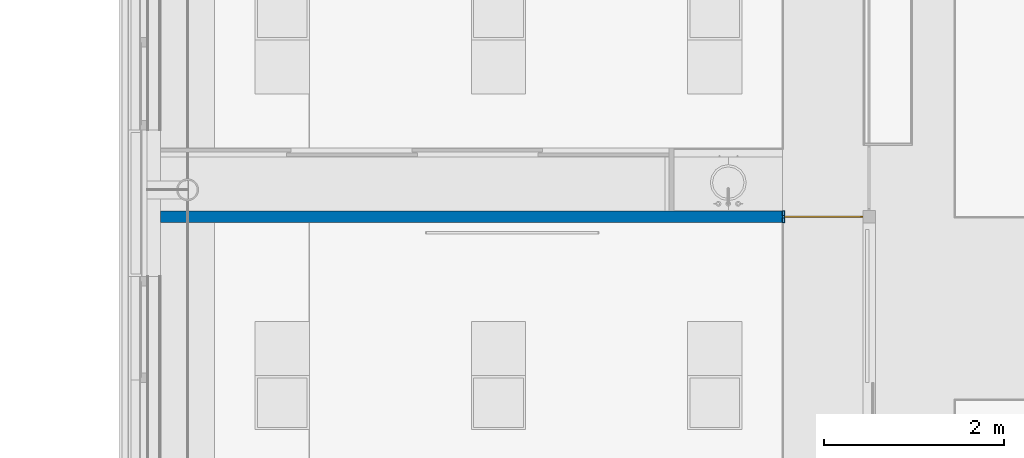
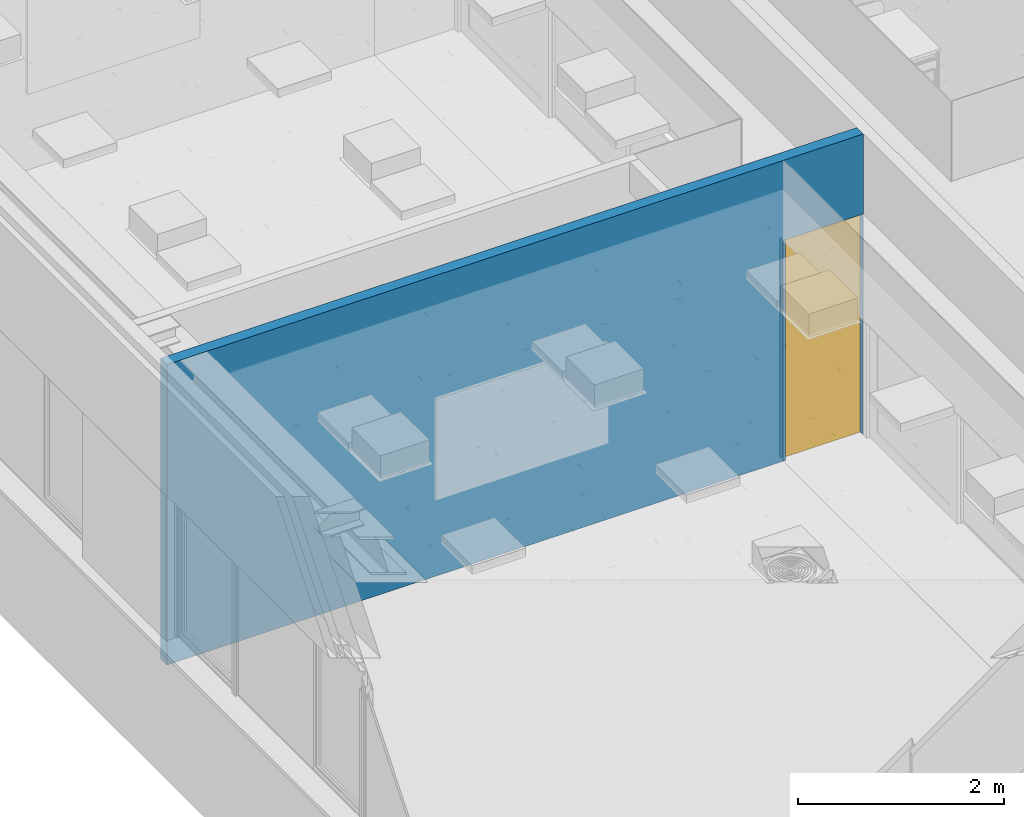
# One storey, part 27 of 260: 2 building element parts, 1 wall, 1 window, 2 openings, 1 element without a shape of its own.
"""IFC2X3 building model written with IfcOpenShell, lengths in millimetres."""

import ifcopenshell
import ifcopenshell.guid

model = None  # the IFC model being written
_history = None  # IfcOwnerHistory: only IFC2X3 demands one
_inside = {}  # id of a spatial element -> (the spatial element, [elements in it])
_under = {}  # id of a project, library or spatial element -> (it, [spatial elements below it])
_declared = {}  # id of a project -> (the project, [libraries it declares])
_typed = {}  # id of a type object -> (the type object, [elements of that type])
_made_of = {}  # id of a material, layer set ... -> (it, [elements and type objects made of it])


def new_model(schema):
    """Start an empty IFC model of exactly this schema.

    Asked for "IFC4X3", IfcOpenShell would pick the latest addendum, in which some entities
    have other attributes; the version numbers below select the first issue.
    IFC2X3 requires an IfcOwnerHistory on every rooted entity: one is made here for all.
    """
    global model, _history
    if schema == "IFC4X3":
        model = ifcopenshell.file(schema_version=(4, 3, 0, 0))
    else:
        model = ifcopenshell.file(schema=schema)
    _inside.clear()
    _under.clear()
    _declared.clear()
    _typed.clear()
    _made_of.clear()
    _history = None
    if model.schema == "IFC2X3":
        org = make("IfcOrganization", Name="unknown")
        user = make(
            "IfcPersonAndOrganization",
            ThePerson=make("IfcPerson", FamilyName="unknown"),
            TheOrganization=org,
        )
        app = make(
            "IfcApplication",
            ApplicationDeveloper=org,
            Version="unknown",
            ApplicationFullName="unknown",
            ApplicationIdentifier="unknown",
        )
        _history = make(
            "IfcOwnerHistory",
            OwningUser=user,
            OwningApplication=app,
            ChangeAction="ADDED",
            CreationDate=0,
        )
    return model


def make(cls, **values):
    """One entity of the class cls with the attributes given. An attribute that is None is left unset."""
    return model.create_entity(
        cls, **{name: value for name, value in values.items() if value is not None}
    )


def entity(cls, *values):
    """Any entity or typed value of the class cls, its attributes in the order of the schema. None: left unset."""
    e = model.create_entity(cls)
    for i, value in enumerate(values):
        if value is not None:
            e[i] = value
    return e


def rooted(cls, **values):
    """An entity with a GlobalId (a new one), such as an element, a storey or a relation."""
    return make(cls, GlobalId=ifcopenshell.guid.new(), OwnerHistory=_history, **values)


def si_unit(unit_type, name, prefix=None):
    """IfcSIUnit, for example si_unit("LENGTHUNIT", "METRE", prefix="MILLI")."""
    return make("IfcSIUnit", UnitType=unit_type, Prefix=prefix, Name=name)


def converted_unit(unit_type, name, factor, base, dimensions=None, offset=None):
    """IfcConversionBasedUnit, such as the inch: factor (a typed value) times the base unit."""
    return make(
        "IfcConversionBasedUnit"
        if offset is None
        else "IfcConversionBasedUnitWithOffset",
        ConversionOffset=offset,
        Dimensions=None
        if dimensions is None
        else entity("IfcDimensionalExponents", *dimensions),
        UnitType=unit_type,
        Name=name,
        ConversionFactor=make(
            "IfcMeasureWithUnit", ValueComponent=factor, UnitComponent=base
        ),
    )


def derived_unit(unit_type, elements):
    """IfcDerivedUnit: a product of units, each with its exponent."""
    return make(
        "IfcDerivedUnit",
        Elements=[
            make("IfcDerivedUnitElement", Unit=unit, Exponent=power)
            for unit, power in elements
        ],
        UnitType=unit_type,
    )


def money_unit(currency):
    """IfcMonetaryUnit."""
    return make("IfcMonetaryUnit", Currency=currency)


def assignment(units):
    """IfcUnitAssignment: the units of a project."""
    return None if units is None else make("IfcUnitAssignment", Units=units)


def point(xyz):
    """IfcCartesianPoint."""
    return None if xyz is None else make("IfcCartesianPoint", Coordinates=xyz)


def direction(xyz):
    """IfcDirection."""
    return None if xyz is None else make("IfcDirection", DirectionRatios=xyz)


def frame(location, z_axis=None, x_axis=None):
    """IfcAxis2Placement3D, a coordinate frame: its origin and axes. An axis left out is left unset."""
    return make(
        "IfcAxis2Placement3D",
        Location=point(location),
        Axis=direction(z_axis),
        RefDirection=direction(x_axis),
    )


def origin_with_axes():
    """The frame at (0, 0, 0) with the z axis (0, 0, 1) and the x axis (1, 0, 0) written out."""
    return frame((0.0, 0.0, 0.0), z_axis=(0.0, 0.0, 1.0), x_axis=(1.0, 0.0, 0.0))


def place(relative_to, where):
    """IfcLocalPlacement: puts the frame where relative to a parent placement (None: the world)."""
    return make(
        "IfcLocalPlacement", PlacementRelTo=relative_to, RelativePlacement=where
    )


def context(
    kind, dimensions, precision=None, world=None, true_north=None, identifier=None
):
    """IfcGeometricRepresentationContext, for example the 3D "Model" context."""
    return make(
        "IfcGeometricRepresentationContext",
        ContextIdentifier=identifier,
        ContextType=kind,
        CoordinateSpaceDimension=dimensions,
        Precision=precision,
        WorldCoordinateSystem=world,
        TrueNorth=true_north,
    )


def subcontext(parent, identifier, kind, view, scale=None):
    """IfcGeometricRepresentationSubContext, for example "Body" below "Model"."""
    return make(
        "IfcGeometricRepresentationSubContext",
        ContextIdentifier=identifier,
        ContextType=kind,
        ParentContext=parent,
        TargetScale=scale,
        TargetView=view,
    )


def project(units=None, contexts=None):
    """IfcProject with its units and contexts."""
    return rooted(
        "IfcProject",
        Name="project",
        RepresentationContexts=contexts,
        UnitsInContext=assignment(units),
    )


def spatial(cls, under=None, at=None, **own):
    """A site, building, storey or space (cls), placed at a placement, below another one or the project."""
    s = rooted(cls, ObjectPlacement=at, **own)
    if under is not None:
        _under.setdefault(under.id(), (under, []))[1].append(s)
    return s


def faces_of(points, faces, orient=None, outer=None):
    """IfcFace entities. A face is a list of loops; a loop is a list of indices into points, from 0.

    orient and outer hold one flag for each loop. By default every Orientation is true, the
    first loop of a face is its IfcFaceOuterBound and the others are IfcFaceBound.
    """
    made = []
    for i, loops in enumerate(faces):
        bounds = []
        for j, loop in enumerate(loops):
            is_outer = j == 0 if outer is None else outer[i][j]
            bounds.append(
                make(
                    "IfcFaceOuterBound" if is_outer else "IfcFaceBound",
                    Bound=make("IfcPolyLoop", Polygon=[points[k] for k in loop]),
                    Orientation=True if orient is None else orient[i][j],
                )
            )
        made.append(make("IfcFace", Bounds=bounds))
    return made


def open_shell(faces, orient=None, outer=None):
    """The faces of one IfcOpenShell. surface_model builds it on its shared points."""
    return ("IfcOpenShell", faces, orient, outer)


def faceted_brep(points, faces, orient=None, outer=None, voids=None):
    """IfcFacetedBrep: a solid bounded by flat faces; with voids (closed shells), ...WithVoids."""
    shared = [point(p) for p in points]
    hull = make("IfcClosedShell", CfsFaces=faces_of(shared, faces, orient, outer))
    if voids is None:
        return make("IfcFacetedBrep", Outer=hull)
    return make(
        "IfcFacetedBrepWithVoids",
        Outer=hull,
        Voids=[
            make(cls, CfsFaces=faces_of(shared, fs, o, b)) for cls, fs, o, b in voids
        ],
    )


def surface_model(cls, points, shells):
    """IfcFaceBasedSurfaceModel or IfcShellBasedSurfaceModel (cls): surfaces that need not close."""
    shared = [point(p) for p in points]
    made = [make(c, CfsFaces=faces_of(shared, fs, o, b)) for c, fs, o, b in shells]
    if cls == "IfcFaceBasedSurfaceModel":
        return make(cls, FbsmFaces=made)
    return make(cls, SbsmBoundary=made)


def shape(context_of_items, identifier, shape_type, items):
    """IfcShapeRepresentation: the items that make up one representation, for example the "Body"."""
    return make(
        "IfcShapeRepresentation",
        ContextOfItems=context_of_items,
        RepresentationIdentifier=identifier,
        RepresentationType=shape_type,
        Items=items,
    )


def source(mapping_origin, context_of_items, identifier, shape_type, items):
    """IfcRepresentationMap: a shape defined once, which mapped items show again and again."""
    return make(
        "IfcRepresentationMap",
        MappingOrigin=mapping_origin,
        MappedRepresentation=shape(context_of_items, identifier, shape_type, items),
    )


def transform(
    local_origin,
    x_axis=None,
    y_axis=None,
    z_axis=None,
    scale=None,
    scale2=None,
    scale3=None,
    uniform=True,
):
    """IfcCartesianTransformationOperator3D, or its non-uniform kind. x_axis, y_axis, z_axis: its Axis1, 2, 3."""
    if uniform:
        return make(
            "IfcCartesianTransformationOperator3D",
            Axis1=direction(x_axis),
            Axis2=direction(y_axis),
            LocalOrigin=point(local_origin),
            Scale=scale,
            Axis3=direction(z_axis),
        )
    return make(
        "IfcCartesianTransformationOperator3DnonUniform",
        Axis1=direction(x_axis),
        Axis2=direction(y_axis),
        LocalOrigin=point(local_origin),
        Scale=scale,
        Axis3=direction(z_axis),
        Scale2=scale2,
        Scale3=scale3,
    )


def mapped(mapping_source, mapping_target):
    """IfcMappedItem: shows the shape of a source again, moved by a transform."""
    return make(
        "IfcMappedItem", MappingSource=mapping_source, MappingTarget=mapping_target
    )


def material(Name=None, Category=None):
    """IfcMaterial."""
    return make("IfcMaterial", Name=Name, Category=Category)


def made_of(thing, what):
    """Note that an element or type object is made of a material, layer set ...; save() writes the relation."""
    if what is not None:
        _made_of.setdefault(what.id(), (what, []))[1].append(thing)
    return thing


def type_object(cls, material=None, **own):
    """A type object (cls), such as IfcWallType, which elements share."""
    return made_of(rooted(cls, **own), material)


def type_shapes(of_type, sources):
    """Give a type object the sources (RepresentationMaps) that its elements show as mapped items."""
    of_type.RepresentationMaps = sources


def element(
    cls,
    number,
    at=None,
    inside=None,
    cuts=None,
    type_object=None,
    material=None,
    context=None,
    identifier="Body",
    shape_type=None,
    held_by="IfcProductDefinitionShape",
    body=None,
    shapes=None,
    **own,
):
    """One element of the class cls, such as IfcWall. Its Tag is "e" and its number.

    at: its placement. inside: the storey or other place that contains it. cuts: it is an
    opening in that element (IfcRelVoidsElement). A single representation is given by context,
    identifier, shape_type and body (its items); several are given by shapes. held_by: the class
    of the entity that holds the representations. save() writes the other relations.
    """
    e = rooted(cls, Tag="e%d" % number, ObjectPlacement=at, **own)
    if body is not None:
        shapes = [shape(context, identifier, shape_type, body)]
    if shapes is not None:
        e.Representation = make(held_by, Representations=shapes)
    if inside is not None:
        _inside.setdefault(inside.id(), (inside, []))[1].append(e)
    if cuts is not None:
        rooted(
            "IfcRelVoidsElement", RelatingBuildingElement=cuts, RelatedOpeningElement=e
        )
    if type_object is not None:
        _typed.setdefault(type_object.id(), (type_object, []))[1].append(e)
    return made_of(e, material)


def fill(opening, filler):
    """IfcRelFillsElement: the door or window that sits in an opening."""
    return rooted(
        "IfcRelFillsElement",
        RelatingOpeningElement=opening,
        RelatedBuildingElement=filler,
    )


def aggregate(whole, parts):
    """IfcRelAggregates: a whole, such as a stair, and the parts it consists of."""
    return rooted("IfcRelAggregates", RelatingObject=whole, RelatedObjects=parts)


def save(model, path):
    """Write the relations noted so far, then the file.

    IfcRelAggregates (storeys below a building ...), IfcRelContainedInSpatialStructure (elements
    in a storey), IfcRelDefinesByType, IfcRelAssociatesMaterial and IfcRelDeclares: one each for
    every whole, place, type object, material and project.
    """
    for whole, parts in _under.values():
        aggregate(whole, parts)
    for where, things in _inside.values():
        rooted(
            "IfcRelContainedInSpatialStructure",
            RelatedElements=things,
            RelatingStructure=where,
        )
    for kind, things in _typed.values():
        rooted("IfcRelDefinesByType", RelatedObjects=things, RelatingType=kind)
    for what, things in _made_of.values():
        rooted("IfcRelAssociatesMaterial", RelatedObjects=things, RelatingMaterial=what)
    for by, libraries in _declared.values():
        rooted("IfcRelDeclares", RelatingContext=by, RelatedDefinitions=libraries)
    model.write(path)


model = new_model("IFC2X3")

# Units and contexts
model_context = context("Model", 3, precision=0.01, world=origin_with_axes(), true_north=direction((0.0, 1.0)))
plan_context = context("Plan", 3, precision=0.01, world=origin_with_axes(), true_north=direction((0.0, 1.0)))
body_context = subcontext(model_context, "Body", "Model", "MODEL_VIEW")
ifc_project = project(units=[si_unit("LENGTHUNIT", "METRE", prefix="MILLI"), si_unit("AREAUNIT", "SQUARE_METRE"), si_unit("VOLUMEUNIT", "CUBIC_METRE"), converted_unit("PLANEANGLEUNIT", "DEGREE", entity("IfcPlaneAngleMeasure", 0.0174532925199), si_unit("PLANEANGLEUNIT", "RADIAN"), dimensions=[0, 0, 0, 0, 0, 0, 0]), money_unit("EUR"), converted_unit("TIMEUNIT", "Year", entity("IfcTimeMeasure", 31556926.0), si_unit("TIMEUNIT", "SECOND"), dimensions=[0, 0, 1, 0, 0, 0, 0]), si_unit("MASSUNIT", "GRAM", prefix="KILO"), si_unit("THERMODYNAMICTEMPERATUREUNIT", "DEGREE_CELSIUS"), si_unit("LUMINOUSINTENSITYUNIT", "LUMEN"), si_unit("ENERGYUNIT", "JOULE", prefix="MEGA"), derived_unit("THERMALCONDUCTANCEUNIT", [(si_unit("POWERUNIT", "WATT"), 1), (si_unit("LENGTHUNIT", "METRE"), -1), (si_unit("THERMODYNAMICTEMPERATUREUNIT", "KELVIN"), -1)]), derived_unit("SPECIFICHEATCAPACITYUNIT", [(si_unit("ENERGYUNIT", "JOULE"), 1), (si_unit("MASSUNIT", "GRAM", prefix="KILO"), -1), (si_unit("THERMODYNAMICTEMPERATUREUNIT", "KELVIN"), -1)]), derived_unit("MASSDENSITYUNIT", [(si_unit("MASSUNIT", "GRAM", prefix="KILO"), 1), (si_unit("VOLUMEUNIT", "CUBIC_METRE"), -1)])], contexts=[model_context, plan_context])

# Site, building, storey
site_placement = place(None, origin_with_axes())
site = spatial("IfcSite", under=ifc_project, at=site_placement, Name="Site", CompositionType="ELEMENT")
building_placement = place(site_placement, origin_with_axes())
building = spatial("IfcBuilding", under=site, at=building_placement, Name="Naam gebouw", CompositionType="ELEMENT")
storey_placement = place(building_placement, frame((0.0, 0.0, 3960.0), z_axis=(0.0, 0.0, 1.0), x_axis=(1.0, 0.0, 0.0)))
storey = spatial("IfcBuildingStorey", under=building, at=storey_placement, Name="verdieping", CompositionType="ELEMENT", Elevation=3960.0)

# Wall, openings, windows, building element parts
ifc_material_1 = material(Name="ALG - LICHTE SCHEIDINGSWAND")
wall_type = type_object("IfcWallType", Name="ALG LSW 125 125", PredefinedType="NOTDEFINED")
wall_placement = place(storey_placement, frame((24275.0, 27975.0, 0.0), z_axis=(0.0, 0.0, 1.0), x_axis=(1.0, 0.0, 0.0)))
wall = element("IfcWall", 1, at=wall_placement, inside=storey, type_object=wall_type, material=ifc_material_1, Name="22_GF 125 ECO DGS/2.75.2A", context=body_context, shape_type="Brep", body=[
    faceted_brep([(7793.0, 62.5, 0.0), (7793.0, -62.5, 0.0), (7793.0, -62.5, 2600.0), (7793.0, 62.5, 2600.0), (7800.0, -62.5, 0.0), (7800.0, 62.5, 0.0), (7800.0, -62.5, 2600.0), (7800.0, 62.5, 2600.0)], [[[0, 1, 2, 3]], [[4, 1, 0, 5]], [[6, 2, 1, 4]], [[3, 2, 6, 7]], [[0, 3, 7, 5]], [[7, 6, 4, 5]]]),
    faceted_brep([(6900.0, -62.5, 2612.0), (6900.0, -62.5, 2600.0), (6900.0, 62.5, 2600.0), (6900.0, 62.5, 2612.0), (2.53319498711e-06, -62.5, 0.0), (6900.0, -62.5, 0.0), (7800.0, -62.5, 2612.0), (7800.0, -62.5, 3560.00000019), (2.53319498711e-06, -62.5, 3560.00001386), (6900.0, 62.5, 0.0), (2.53319498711e-06, 62.5, 3560.00001386), (7800.0, 62.5, 3560.00000019), (7800.0, 62.5, 2612.0), (2.53319498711e-06, 62.5, 0.0)], [[[0, 1, 2, 3]], [[4, 5, 1, 0, 6, 7, 8]], [[2, 1, 5, 9]], [[10, 11, 12, 3, 2, 9, 13]], [[3, 12, 6, 0]], [[9, 5, 4, 13]], [[6, 12, 11, 7]], [[11, 10, 8, 7]], [[4, 8, 10, 13]]]),
])
opening_1_placement = place(wall_placement, frame((7346.5, 0.0, 0.0), z_axis=(0.0, 0.0, 1.0), x_axis=(1.0, 0.0, 0.0)))
opening_1 = element("IfcOpeningElement", 2, at=opening_1_placement, cuts=wall, Name="32_10.02", context=body_context, shape_type="Brep", body=[
    faceted_brep([(-446.5, 10.0, 2600.0), (-446.5, 10.0, 0.0), (-446.5, -187.5, 0.0), (-446.5, -187.5, 2600.0), (446.5, 10.0, 2600.0), (446.5, 10.0, 0.0), (446.5, -187.5, 0.0), (446.5, -187.5, 2600.0)], [[[0, 1, 2, 3]], [[0, 4, 5, 1]], [[1, 5, 6, 2]], [[3, 2, 6, 7]], [[4, 0, 3, 7]], [[5, 4, 7, 6]]]),
    faceted_brep([(-446.5, 10.0, 0.0), (-446.5, 10.0, 2600.0), (-446.5, 187.5, 2600.0), (-446.5, 187.5, 0.0), (446.5, 10.0, 0.0), (446.5, 10.0, 2600.0), (446.5, 187.5, 2600.0), (446.5, 187.5, 0.0)], [[[0, 1, 2, 3]], [[0, 4, 5, 1]], [[1, 5, 6, 2]], [[3, 2, 6, 7]], [[4, 0, 3, 7]], [[5, 4, 7, 6]]]),
])
opening_2_placement = place(wall_placement, frame((6912.5, 0.0, 0.0), z_axis=(0.0, 0.0, 1.0), x_axis=(1.0, 0.0, 0.0)))
opening_2 = element("IfcOpeningElement", 3, at=opening_2_placement, cuts=wall, Name="31_-", context=body_context, shape_type="Brep", body=[
    faceted_brep([(12.5, -187.5, 2600.0), (12.5, -187.5, 0.0), (12.5, -12.5, 0.0), (12.5, -12.5, 2600.0), (-12.5, -187.5, 2600.0), (-12.5, -187.5, 0.0), (-12.5, -12.5, 0.0), (-12.5, -12.5, 2600.0)], [[[0, 1, 2, 3]], [[0, 4, 5, 1]], [[1, 5, 6, 2]], [[3, 2, 6, 7]], [[4, 0, 3, 7]], [[5, 4, 7, 6]]]),
    faceted_brep([(12.5, 162.5, 0.0), (12.5, 162.5, 2600.0), (12.5, -12.5, 2600.0), (12.5, -12.5, 0.0), (-12.5, 162.5, 0.0), (-12.5, 162.5, 2600.0), (-12.5, -12.5, 2600.0), (-12.5, -12.5, 0.0)], [[[0, 1, 2, 3]], [[0, 4, 5, 1]], [[1, 5, 6, 2]], [[3, 2, 6, 7]], [[4, 0, 3, 7]], [[5, 4, 7, 6]]]),
])
window_style_1 = type_object("IfcWindowStyle", Name="R1 25", ConstructionType="NOTDEFINED", OperationType="SINGLE_PANEL", ParameterTakesPrecedence=False, Sizeable=False)
shared_shape_1 = source(origin_with_axes(), body_context, "Body", "SurfaceModel", [
    faceted_brep([(426.5, -20.0, 2580.0), (446.5, -20.0, 2580.0), (446.5, 0.0, 2580.0), (426.5, 0.0, 2580.0), (426.5, -20.0, 20.0), (446.5, -20.0, 20.0), (446.5, 0.0, 20.0), (426.5, 0.0, 20.0)], [[[0, 1, 2, 3]], [[0, 4, 5, 1]], [[1, 5, 6, 2]], [[3, 2, 6, 7]], [[4, 0, 3, 7]], [[5, 4, 7, 6]]]),
    faceted_brep([(-426.5, -20.0, 20.0), (-446.5, -20.0, 20.0), (-446.5, 0.0, 20.0), (-426.5, 0.0, 20.0), (-426.5, -20.0, 2580.0), (-446.5, -20.0, 2580.0), (-446.5, 0.0, 2580.0), (-426.5, 0.0, 2580.0)], [[[0, 1, 2, 3]], [[0, 4, 5, 1]], [[1, 5, 6, 2]], [[3, 2, 6, 7]], [[4, 0, 3, 7]], [[5, 4, 7, 6]]]),
    faceted_brep([(426.5, -20.0, 20.0), (446.5, -20.0, 20.0), (446.5, 0.0, 20.0), (426.5, 0.0, 20.0), (-426.5, -20.0, 20.0), (-446.5, -20.0, 20.0), (-446.5, -20.0, 0.0), (446.5, -20.0, 0.0), (446.5, 0.0, 0.0), (-446.5, 0.0, 0.0), (-446.5, 0.0, 20.0), (-426.5, 0.0, 20.0)], [[[0, 1, 2, 3]], [[0, 4, 5, 6, 7, 1]], [[1, 7, 8, 2]], [[3, 2, 8, 9, 10, 11]], [[4, 0, 3, 11]], [[5, 4, 11, 10]], [[6, 5, 10, 9]], [[7, 6, 9, 8]]]),
    faceted_brep([(-426.5, -20.0, 2580.0), (-446.5, -20.0, 2580.0), (-446.5, 0.0, 2580.0), (-426.5, 0.0, 2580.0), (426.5, -20.0, 2580.0), (446.5, -20.0, 2580.0), (446.5, -20.0, 2600.0), (-446.5, -20.0, 2600.0), (-446.5, 0.0, 2600.0), (446.5, 0.0, 2600.0), (446.5, 0.0, 2580.0), (426.5, 0.0, 2580.0)], [[[0, 1, 2, 3]], [[0, 4, 5, 6, 7, 1]], [[1, 7, 8, 2]], [[3, 2, 8, 9, 10, 11]], [[4, 0, 3, 11]], [[5, 4, 11, 10]], [[6, 5, 10, 9]], [[7, 6, 9, 8]]]),
    surface_model("IfcShellBasedSurfaceModel", [(426.5, -20.0, 20.0), (426.5, -20.0, 2580.0), (-426.5, -20.0, 2580.0), (-426.5, -20.0, 20.0)], [open_shell([[[0, 1, 2, 3]]])]),
    surface_model("IfcShellBasedSurfaceModel", [(426.5, 0.0, 20.0), (-426.5, 0.0, 20.0), (-426.5, 0.0, 2580.0), (426.5, 0.0, 2580.0)], [open_shell([[[0, 1, 2, 3]]])]),
])
type_shapes(window_style_1, [shared_shape_1])
window_1_placement = place(opening_1_placement, frame((-446.5, 0.0, 0.0), z_axis=(0.0, 0.0, 1.0), x_axis=(1.0, 0.0, 0.0)))
window_1 = element("IfcWindow", 4, at=window_1_placement, inside=storey, type_object=window_style_1, Name="32_10.02", ObjectType="WINDOW", OverallHeight=2600.0, OverallWidth=893.0, context=body_context, shape_type="MappedRepresentation", body=[
    mapped(shared_shape_1, transform((446.5, 10.0, 0.0))),
])
fill(opening_1, window_1)
window_style_2 = type_object("IfcWindowStyle", Name="32 glaslatten 125mm wand", ConstructionType="NOTDEFINED", OperationType="NOTDEFINED", ParameterTakesPrecedence=False, Sizeable=False)
window_2_placement = place(opening_2_placement, frame((12.5, 0.0, 0.0), z_axis=(0.0, 0.0, 1.0), x_axis=(-1.0, 0.0, 0.0)))
window_2 = element("IfcWindow", 5, at=window_2_placement, inside=storey, type_object=window_style_2, Name="31_-", ObjectType="WINDOW", OverallHeight=2600.0, OverallWidth=25.0)
fill(opening_2, window_2)
ifc_material_2 = material(Name="32 Hout binnenkozijn")
shared_shape_2 = source(origin_with_axes(), body_context, "Body", "Brep", [
    faceted_brep([(12.5, -77.0, 2600.0), (-12.5, -77.0, 2600.0), (-12.5, -77.0, 0.0), (12.5, -77.0, 0.0), (12.5, -25.0, 2600.0), (-12.5, -25.0, 2600.0), (-12.5, -25.0, 0.0), (12.5, -25.0, 0.0)], [[[0, 1, 2, 3]], [[0, 4, 5, 1]], [[1, 5, 6, 2]], [[3, 2, 6, 7]], [[4, 0, 3, 7]], [[5, 4, 7, 6]]]),
    faceted_brep([(12.5, 0.0, 2600.0), (-12.5, 0.0, 2600.0), (-12.5, 0.0, 0.0), (12.5, 0.0, 0.0), (12.5, 52.0, 2600.0), (-12.5, 52.0, 2600.0), (-12.5, 52.0, 0.0), (12.5, 52.0, 0.0)], [[[0, 1, 2, 3]], [[0, 4, 5, 1]], [[1, 5, 6, 2]], [[3, 2, 6, 7]], [[4, 0, 3, 7]], [[5, 4, 7, 6]]]),
])
building_element_part_1_placement = place(window_2_placement, origin_with_axes())
building_element_part_1 = element("IfcBuildingElementPart", 6, at=building_element_part_1_placement, material=ifc_material_2, Name="32 Hout binnenkozijn", context=body_context, shape_type="MappedRepresentation", body=[
    mapped(shared_shape_2, transform((12.5, 12.5, 0.0))),
])
ifc_material_3 = material(Name="Membraan - rubber")
shared_shape_3 = source(origin_with_axes(), body_context, "Body", "Brep", [
    faceted_brep([(12.5, -25.0, 2600.0), (-12.5, -25.0, 2600.0), (-12.5, -25.0, 0.0), (12.5, -25.0, 0.0), (12.5, 0.0, 2600.0), (-12.5, 0.0, 2600.0), (-12.5, 0.0, 0.0), (12.5, 0.0, 0.0)], [[[0, 1, 2, 3]], [[0, 4, 5, 1]], [[1, 5, 6, 2]], [[3, 2, 6, 7]], [[4, 0, 3, 7]], [[5, 4, 7, 6]]]),
])
building_element_part_2_placement = place(window_2_placement, origin_with_axes())
building_element_part_2 = element("IfcBuildingElementPart", 7, at=building_element_part_2_placement, material=ifc_material_3, Name="Membraan - rubber", context=body_context, shape_type="MappedRepresentation", body=[
    mapped(shared_shape_3, transform((12.5, 12.5, 0.0))),
])
aggregate(window_2, [building_element_part_1, building_element_part_2])

save(model, "model.ifc")
